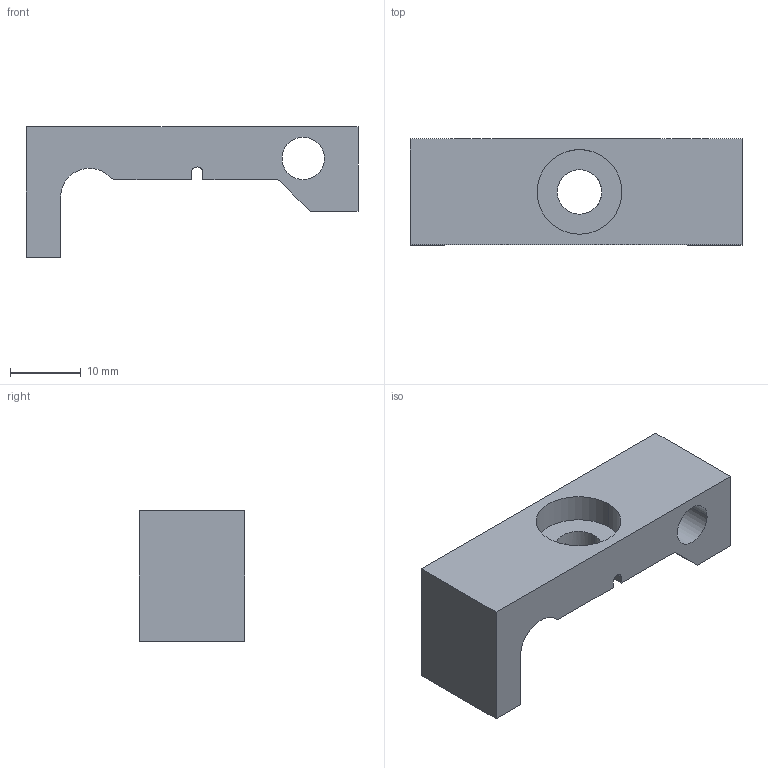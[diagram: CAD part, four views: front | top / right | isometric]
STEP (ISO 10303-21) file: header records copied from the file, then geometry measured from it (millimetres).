
FILE_DESCRIPTION(('CATIA V5 STEP Exchange'),'2;1');
FILE_NAME('D:\交接\张长江\21-Benz H6\光华荣昌转盘数据\H6 转盘\转盘用整椅数据 A9609109920\sample\H6 转盘夏季测试样件方案_20240617\样件数据\塑料件\SHT0017294-14 手柄固定件.stp','2024-06-19T03:07:19+00:00',('none'),('none'),'CATIA Version 5 Release 20 GA (IN-10)','CATIA V5 STEP AP203 Edition 2','none');
FILE_SCHEMA(('AP203_CONFIGURATION_CONTROLLED_3D_DESIGN_OF_MECHANICAL_PARTS_AND_ASSEMBLIES_MIM_LF { 1 0 10303 403 2 1 2}'));
Length unit declared in the file: millimetre
Products named in the file (1): SHT0017294-14
Bounding box: 47 x 15 x 18.5 mm (x, y, z)
Volume: 5596.7 mm3; surface area: 3344.2 mm2
Topology: 1 solids, 1 shells, 27 faces, 77 edges, 52 vertices
Faces by surface type: plane 16, cylinder 11
Entity records: 878 total; most frequent: CARTESIAN_POINT 166, ORIENTED_EDGE 154, DIRECTION 115, EDGE_CURVE 77, VERTEX_POINT 52, VECTOR 51, LINE 51, AXIS2_PLACEMENT_3D 45
